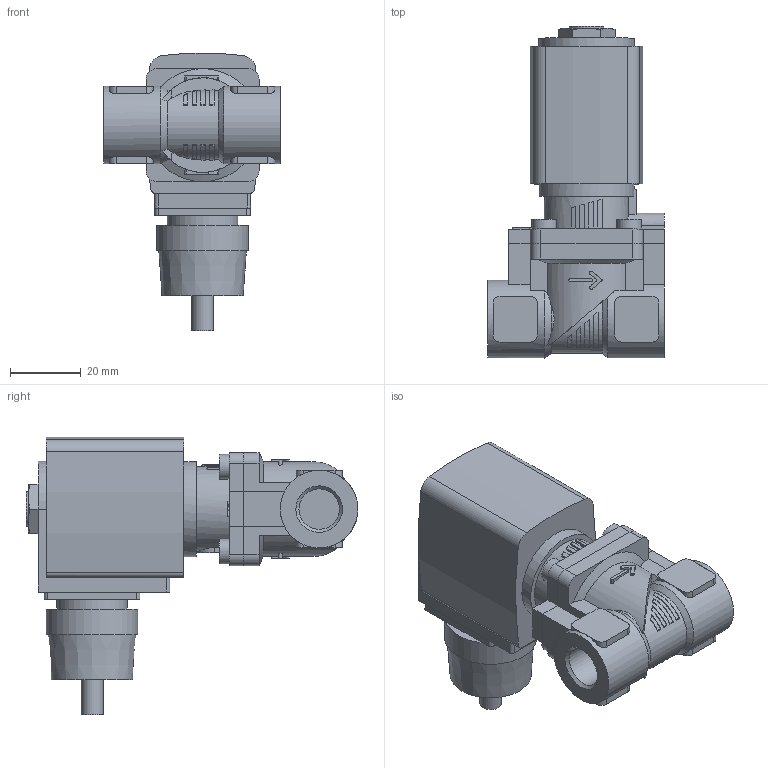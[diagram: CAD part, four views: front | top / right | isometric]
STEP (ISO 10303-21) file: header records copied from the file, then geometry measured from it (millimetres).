
FILE_DESCRIPTION(/* description */ ('STEP AP214'),/* implementation_level */ '2;1');
FILE_NAME(/* name */ '6281-382162-2_2-Way_Solenoid_Valve__Servo-assisted__General_Purpose',/* time_stamp */ '2024-06-17T14:53:04+02:00',/* author */ ('License CC BY-ND 4.0'),/* organization */ ('CADENAS'),/* preprocessor_version */ 'ST-DEVELOPER v19.3',/* originating_system */ 'PARTsolutions',/* authorisation */ ' ');
FILE_SCHEMA (('AUTOMOTIVE_DESIGN {1 0 10303 214 3 1 1}'));
Length unit declared in the file: millimetre
Products named in the file (4): 6281-382162-2/2-Way Solenoid Valve, Servo-assisted, General Purpose; 5281ev100MS2/2-Wege-Magnetventil mit Servomembran-Deckel   ; 6213-10G1/4MS-Gehaeuse-; AC10ex-5ATEXKabelPlan-Coil
Assembly tree (3 placements, depth 2):
  6281-382162-2/2-Way Solenoid Valve, Servo-assisted, General Purpose
    5281ev100MS2/2-Wege-Magnetventil mit Servomembran-Deckel   
    6213-10G1/4MS-Gehaeuse-
    AC10ex-5ATEXKabelPlan-Coil
Bounding box: 50 x 94 x 78.71 mm (x, y, z)
Volume: 104861.8 mm3; surface area: 23771.6 mm2
Topology: 3 solids, 3 shells, 283 faces, 725 edges, 479 vertices
Faces by surface type: plane 180, cylinder 90, cone 13
Full cylindrical faces by diameter (mm): 6.2 x1, 7 x4, 9.74 x1, 11.445 x2, 20 x1, 22 x1, 26 x1, 27 x1
Entity records: 9541 total; most frequent: CARTESIAN_POINT 1709, DIRECTION 1454, ORIENTED_EDGE 1406, EDGE_CURVE 703, AXIS2_PLACEMENT_3D 529, VERTEX_POINT 472, LINE 396, VECTOR 396
